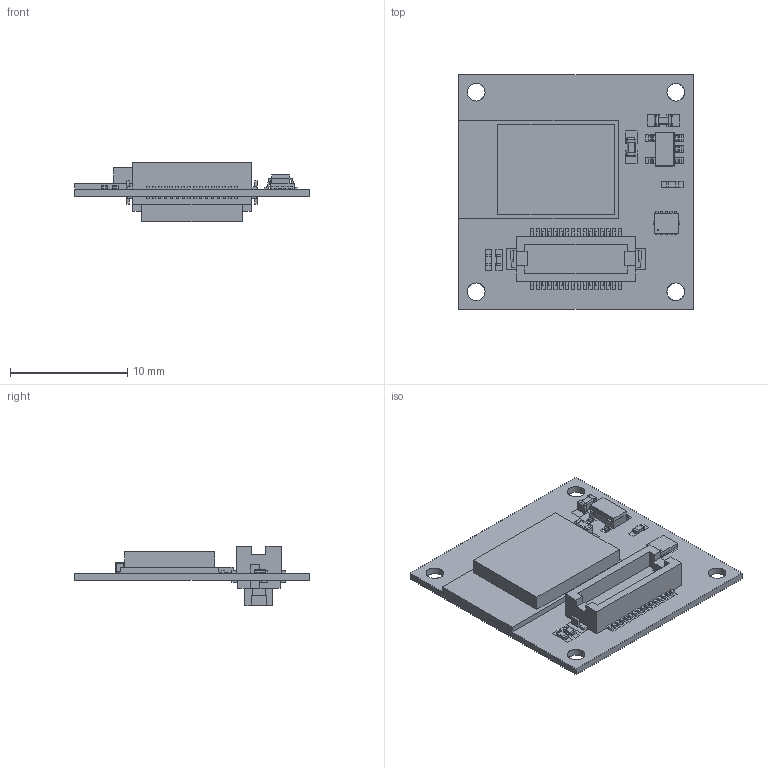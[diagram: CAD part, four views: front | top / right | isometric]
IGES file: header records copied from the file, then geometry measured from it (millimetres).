
Global section: file name: Filename.iges; native system: Open CASCADE 7.4; preprocessor: Open CASCADE IGES processor 7.4; date: 20200722.143043; units: millimetre
Bounding box: 20 x 20 x 5.1 mm (x, y, z)
Surface area: 2645.9 mm2 (no closed solid volume)
Topology: 0 solids, 0 shells, 2319 faces, 10990 edges, 12709 vertices
Faces by surface type: plane 2157, revolution 162
